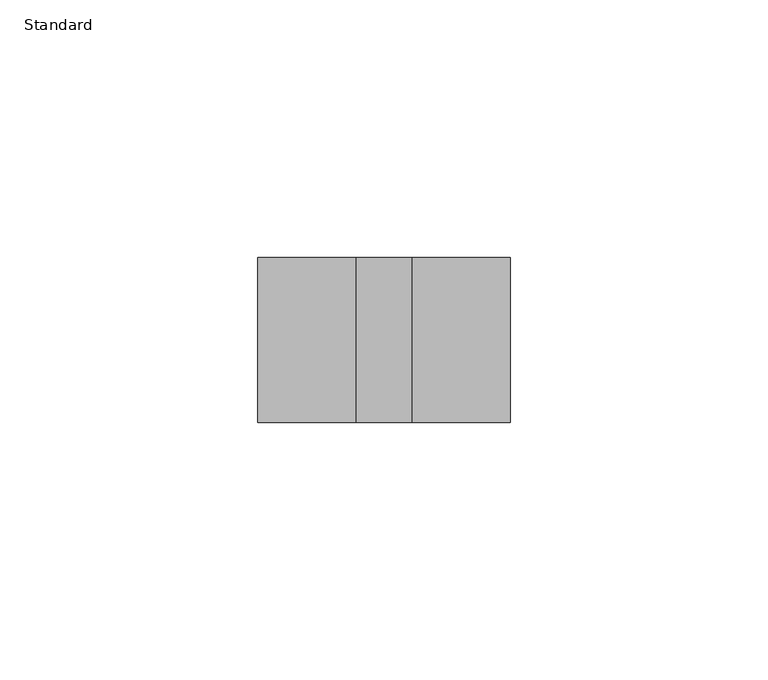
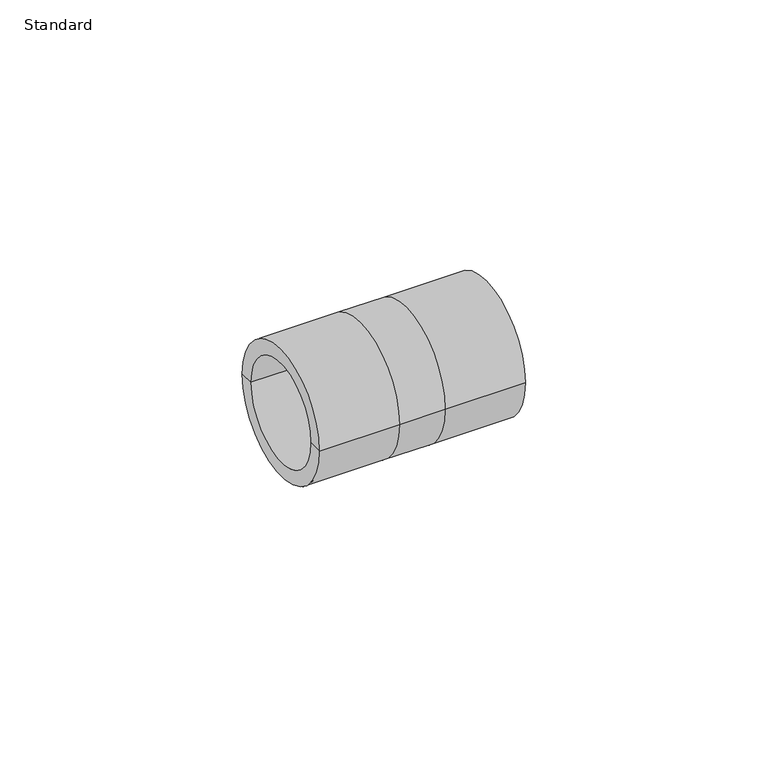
"""IFC4 building model written with IfcOpenShell, lengths in millimetres: pipe fitting geometry, Durapipe_PipeFitting_PVC_Reducers : Standard."""

from ifc_helpers import new_model, si_unit, frame, origin, place, context, project, spatial, polyline, circle_curve, source, transform, mapped, element, save
from ifc_brep_helpers import plane_surface, cylinder_surface, revolved_surface, advanced_brep


def standard_34419c9d(model_context):
    return source(origin(), model_context, "Body", "AdvancedBrep", [
        advanced_brep(
        [(-24.5, -16.0, 0.0), (-24.5, 16.0, 0.0), (-5.5, 16.0, 0.0), (-5.5, -16.0, 0.0), (-24.5, -12.5, 0.0), (-24.5, 12.5, 0.0), (24.5, -16.0, 0.0), (24.5, 16.0, 0.0), (24.5, 12.5, 0.0), (24.5, -12.5, 0.0), (5.5, -16.0, 0.0), (5.5, 16.0, 0.0), (-5.5, -12.5, 0.0), (-5.5, 12.5, 0.0), (-5.5, 0.0, 0.0), (5.5, -12.5, 0.0), (5.5, 12.5, 0.0), (5.5, 0.0, 0.0)],
        [
            (0, 1, circle_curve(frame((-24.5, 0.0, 0.0), z_axis=(1.0, 0.0, 0.0), x_axis=(0.0, 1.0, 0.0)), 16.0)),
            (1, 2),
            (2, 3, circle_curve(frame((-5.5, 0.0, 0.0), z_axis=(-1.0, 0.0, 0.0), x_axis=(0.0, 1.0, 0.0)), 16.0)),
            (3, 0),
            (1, 0, circle_curve(frame((-24.5, 0.0, 0.0), z_axis=(1.0, 0.0, 0.0), x_axis=(0.0, 1.0, 0.0)), 16.0)),
            (3, 2, circle_curve(frame((-5.5, 0.0, 0.0), z_axis=(-1.0, 0.0, 0.0), x_axis=(0.0, 1.0, 0.0)), 16.0)),
            (4, 5, circle_curve(frame((-24.5, 0.0, 0.0), z_axis=(1.0, 0.0, 0.0), x_axis=(0.0, 1.0, 0.0)), 12.5)),
            (5, 1),
            (0, 4),
            (5, 4, circle_curve(frame((-24.5, 0.0, 0.0), z_axis=(1.0, 0.0, 0.0), x_axis=(0.0, 1.0, 0.0)), 12.5)),
            (6, 7, circle_curve(frame((24.5, 0.0, 0.0), z_axis=(1.0, 0.0, 0.0), x_axis=(0.0, 1.0, 0.0)), 16.0)),
            (7, 8),
            (8, 9, circle_curve(frame((24.5, 0.0, 0.0), z_axis=(-1.0, 0.0, 0.0), x_axis=(0.0, 1.0, 0.0)), 12.5)),
            (9, 6),
            (7, 6, circle_curve(frame((24.5, 0.0, 0.0), z_axis=(1.0, 0.0, 0.0), x_axis=(0.0, 1.0, 0.0)), 16.0)),
            (9, 8, circle_curve(frame((24.5, 0.0, 0.0), z_axis=(-1.0, 0.0, 0.0), x_axis=(0.0, 1.0, 0.0)), 12.5)),
            (10, 11, circle_curve(frame((5.5, 0.0, 0.0), z_axis=(1.0, 0.0, 0.0), x_axis=(0.0, 1.0, 0.0)), 16.0)),
            (11, 7),
            (6, 10),
            (11, 10, circle_curve(frame((5.5, 0.0, 0.0), z_axis=(1.0, 0.0, 0.0), x_axis=(0.0, 1.0, 0.0)), 16.0)),
            (2, 11),
            (10, 3),
            (12, 13, circle_curve(frame((-5.5, 0.0, 0.0), z_axis=(1.0, 0.0, 0.0), x_axis=(0.0, 1.0, 0.0)), 12.5)),
            (13, 5),
            (4, 12),
            (13, 12, circle_curve(frame((-5.5, 0.0, 0.0), z_axis=(1.0, 0.0, 0.0), x_axis=(0.0, 1.0, 0.0)), 12.5)),
            (14, 13),
            (12, 14),
            (15, 16, circle_curve(frame((5.5, 0.0, 0.0), z_axis=(1.0, 0.0, 0.0), x_axis=(0.0, 1.0, 0.0)), 12.5)),
            (16, 17),
            (17, 15),
            (16, 15, circle_curve(frame((5.5, 0.0, 0.0), z_axis=(1.0, 0.0, 0.0), x_axis=(0.0, 1.0, 0.0)), 12.5)),
            (8, 16),
            (15, 9),
        ],
        [
            cylinder_surface(frame((-24.5, 0.0, 0.0), z_axis=(-1.0, 0.0, 0.0), x_axis=(0.0, 1.0, 0.0)), 16.0),
            plane_surface(frame((-24.5, 0.0, 0.0), z_axis=(-1.0, 0.0, 0.0), x_axis=(0.0, 1.0, 0.0))),
            plane_surface(frame((24.5, 0.0, 0.0), z_axis=(1.0, 0.0, 0.0), x_axis=(0.0, 1.0, 0.0))),
            revolved_surface(polyline([(-24.5, 12.5, 0.0), (-5.5, 12.5, 0.0)]), (-24.5, 0.0, 0.0), (-1.0, 0.0, 0.0)),
            plane_surface(frame((-5.5, 0.0, 0.0), z_axis=(-1.0, 0.0, 0.0), x_axis=(0.0, 1.0, 0.0))),
            plane_surface(frame((5.5, 0.0, 0.0), z_axis=(1.0, 0.0, 0.0), x_axis=(0.0, 1.0, 0.0))),
            revolved_surface(polyline([(5.5, 12.5, 0.0), (24.5, 12.5, 0.0)]), (-24.5, 0.0, 0.0), (-1.0, 0.0, 0.0)),
        ],
        [
            (0, [[1, 2, 3, 4]]),
            (0, [[5, -4, 6, -2]]),
            (1, [[7, 8, -1, 9]]),
            (1, [[10, -9, -5, -8]]),
            (2, [[11, 12, 13, 14]]),
            (2, [[15, -14, 16, -12]]),
            (0, [[17, 18, -11, 19]]),
            (0, [[20, -19, -15, -18]]),
            (0, [[-3, 21, -17, 22]]),
            (0, [[-6, -22, -20, -21]]),
            (3, [[23, 24, -7, 25]]),
            (3, [[26, -25, -10, -24]]),
            (4, [[27, -23, 28]]),
            (4, [[-28, -26, -27]]),
            (5, [[29, 30, 31]]),
            (5, [[32, -31, -30]]),
            (6, [[-13, 33, -29, 34]]),
            (6, [[-16, -34, -32, -33]]),
        ],
    ),
    ])


if __name__ == "__main__":
    model = new_model("IFC4")
    model_context = context("Model", 3, world=origin())
    ifc_project = project(units=[si_unit("LENGTHUNIT", "METRE", prefix="MILLI")], contexts=[model_context])
    site = spatial("IfcSite", under=ifc_project)
    building = spatial("IfcBuilding", under=site)
    placement = place(None, origin())
    standard_shape = standard_34419c9d(model_context)
    element("IfcPipeFitting", 1, ObjectType="Durapipe_PipeFitting_PVC_Reducers : Standard", at=placement, inside=building, context=model_context, shape_type="MappedRepresentation", body=[
        mapped(standard_shape, transform((0.0, 0.0, 0.0), x_axis=(1.0, 0.0, 0.0), y_axis=(0.0, 1.0, 0.0), z_axis=(0.0, 0.0, 1.0))),
    ])
    save(model, "model.ifc")
